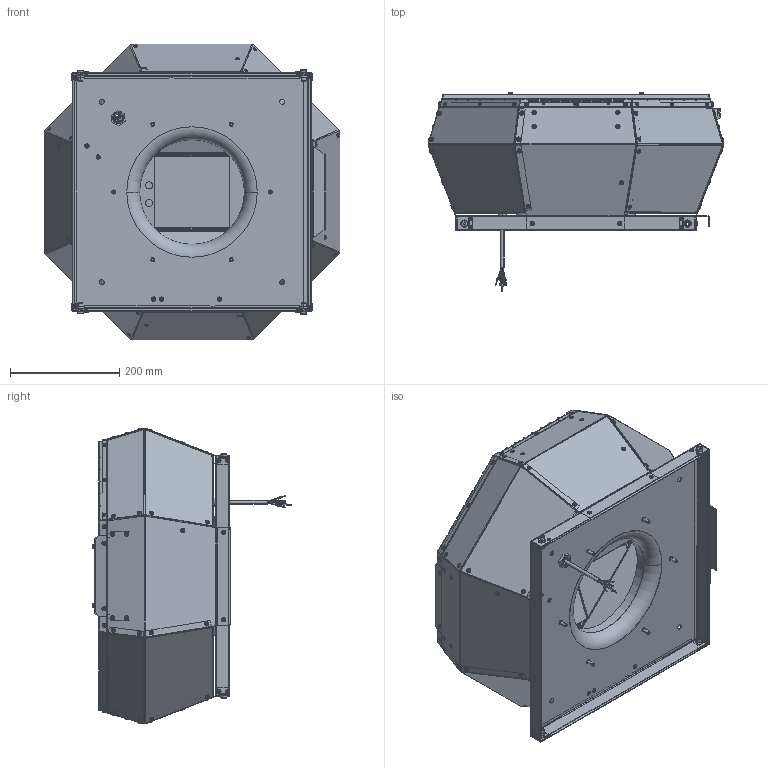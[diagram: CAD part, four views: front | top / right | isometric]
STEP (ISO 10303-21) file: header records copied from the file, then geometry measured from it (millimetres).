
FILE_DESCRIPTION (( 'STEP AP203' ), '1' );
FILE_NAME ('139179-00_DVA280ECP31.STEP', '2017-03-28T07:20:49', ( '' ), ( '' ), 'SwSTEP 2.0', 'SolidWorks 2012', '' );
FILE_SCHEMA (( 'CONFIG_CONTROL_DESIGN' ));
Products named in the file (1): 139179-00_DVA280ECP31
Bounding box: 541.17 x 364 x 541.14 mm (x, y, z)
Surface area: 1985466 mm2 (no closed solid volume)
Topology: 0 solids, 261 shells, 2742 faces, 9328 edges, 6431 vertices
Faces by surface type: plane 1463, cylinder 773, torus 396, bspline 76, cone 34
Entity records: 104499 total; most frequent: CARTESIAN_POINT 22908, DIRECTION 17189, ORIENTED_EDGE 14850, EDGE_CURVE 9328, VERTEX_POINT 6431, AXIS2_PLACEMENT_3D 5761, LINE 5667, VECTOR 5667
